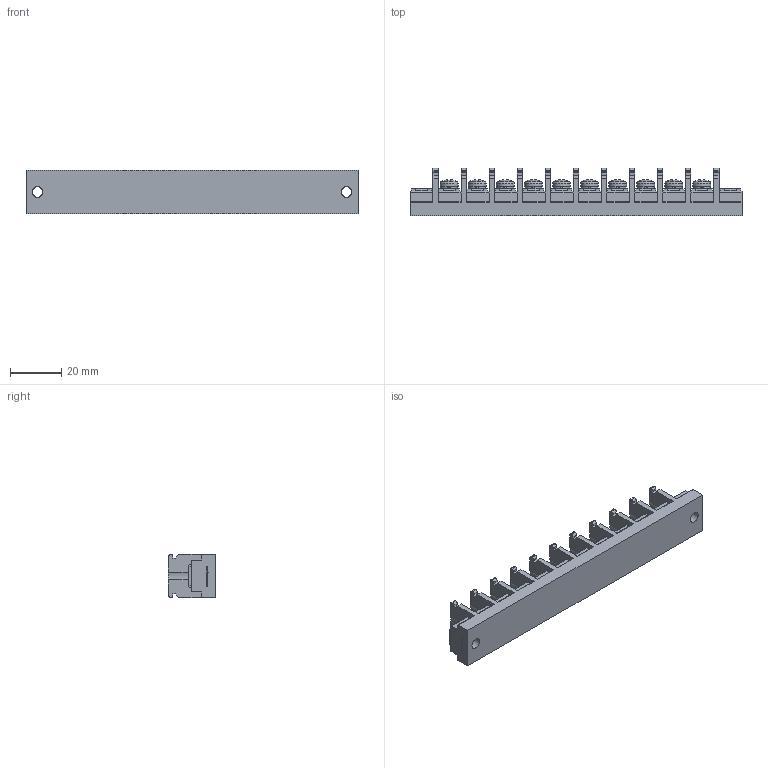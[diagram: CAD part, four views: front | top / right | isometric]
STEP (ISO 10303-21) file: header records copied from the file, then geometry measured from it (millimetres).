
FILE_DESCRIPTION(/* description */ ('Alibre Inc.'),/* implementation_level */ '2;1');
FILE_NAME(/* name */ 'export0',/* time_stamp */ '2015-10-19T19:25:33+09:00',/* author */ (''),/* organization */ (''),/* preprocessor_version */ 'ST-DEVELOPER v14',/* originating_system */ 'Alibre',/* authorisation */ '');
FILE_SCHEMA (('CONFIG_CONTROL_DESIGN'));
Length unit declared in the file: centimetre
Products named in the file (1): ID_1
Bounding box: 130 x 18.5 x 17 mm (x, y, z)
Volume: 23548.4 mm3; surface area: 12976.4 mm2
Topology: 1 solids, 1 shells, 1144 faces, 3206 edges, 2128 vertices
Faces by surface type: plane 798, cylinder 172, bspline 104, cone 40, torus 20, sphere 10
Full cylindrical faces by diameter (mm): 4 x12, 4.2 x2, 6.5 x10, 7 x10
Entity records: 35644 total; most frequent: CARTESIAN_POINT 7593, ORIENTED_EDGE 6260, DIRECTION 4727, EDGE_CURVE 3130, VECTOR 2183, LINE 2183, VERTEX_POINT 2096, AXIS2_PLACEMENT_3D 1666
